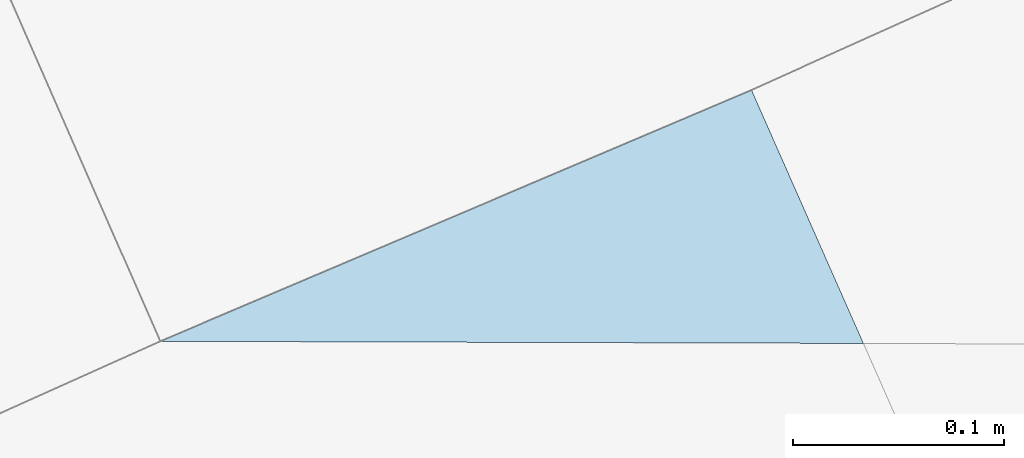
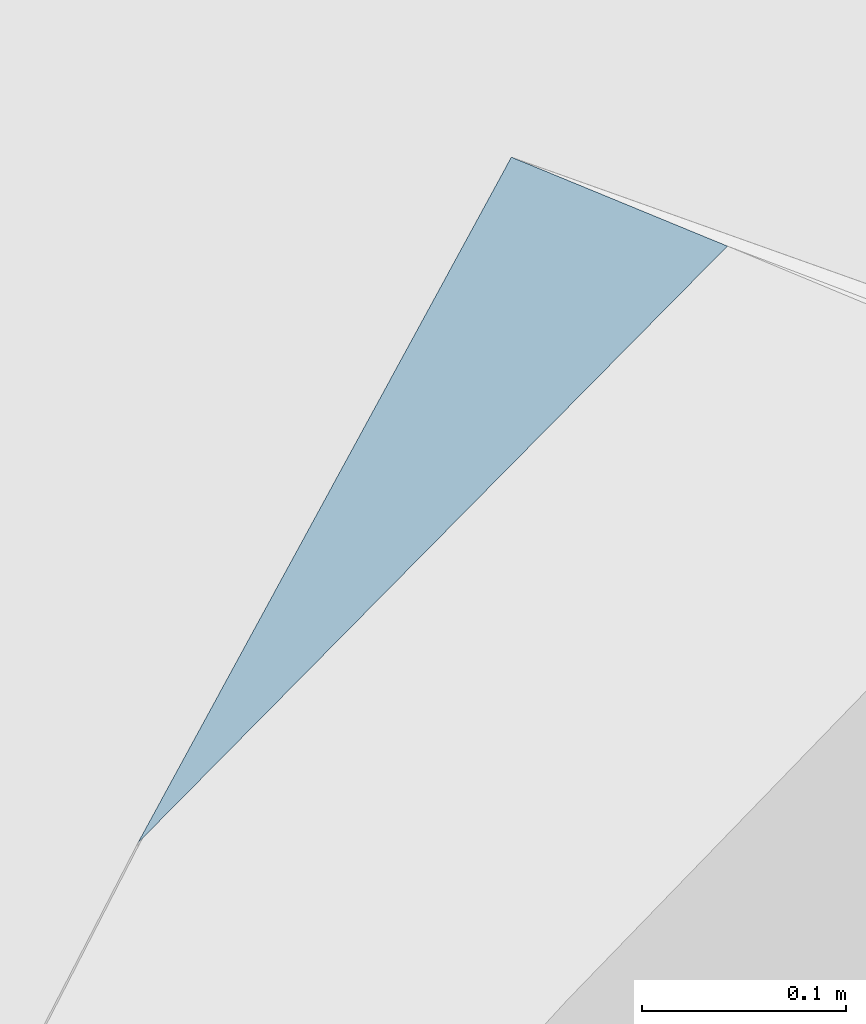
# Not in any storey, part 59 of 59: 2 roofs.
"""IFC4 building model written with IfcOpenShell, lengths in metres."""

import ifcopenshell
import ifcopenshell.guid

model = None  # the IFC model being written
_history = None  # IfcOwnerHistory: only IFC2X3 demands one
_inside = {}  # id of a spatial element -> (the spatial element, [elements in it])
_under = {}  # id of a project, library or spatial element -> (it, [spatial elements below it])
_declared = {}  # id of a project -> (the project, [libraries it declares])
_typed = {}  # id of a type object -> (the type object, [elements of that type])
_made_of = {}  # id of a material, layer set ... -> (it, [elements and type objects made of it])


def new_model(schema):
    """Start an empty IFC model of exactly this schema.

    Asked for "IFC4X3", IfcOpenShell would pick the latest addendum, in which some entities
    have other attributes; the version numbers below select the first issue.
    IFC2X3 requires an IfcOwnerHistory on every rooted entity: one is made here for all.
    """
    global model, _history
    if schema == "IFC4X3":
        model = ifcopenshell.file(schema_version=(4, 3, 0, 0))
    else:
        model = ifcopenshell.file(schema=schema)
    _inside.clear()
    _under.clear()
    _declared.clear()
    _typed.clear()
    _made_of.clear()
    _history = None
    if model.schema == "IFC2X3":
        org = make("IfcOrganization", Name="unknown")
        user = make(
            "IfcPersonAndOrganization",
            ThePerson=make("IfcPerson", FamilyName="unknown"),
            TheOrganization=org,
        )
        app = make(
            "IfcApplication",
            ApplicationDeveloper=org,
            Version="unknown",
            ApplicationFullName="unknown",
            ApplicationIdentifier="unknown",
        )
        _history = make(
            "IfcOwnerHistory",
            OwningUser=user,
            OwningApplication=app,
            ChangeAction="ADDED",
            CreationDate=0,
        )
    return model


def make(cls, **values):
    """One entity of the class cls with the attributes given. An attribute that is None is left unset."""
    return model.create_entity(
        cls, **{name: value for name, value in values.items() if value is not None}
    )


def entity(cls, *values):
    """Any entity or typed value of the class cls, its attributes in the order of the schema. None: left unset."""
    e = model.create_entity(cls)
    for i, value in enumerate(values):
        if value is not None:
            e[i] = value
    return e


def rooted(cls, **values):
    """An entity with a GlobalId (a new one), such as an element, a storey or a relation."""
    return make(cls, GlobalId=ifcopenshell.guid.new(), OwnerHistory=_history, **values)


def si_unit(unit_type, name, prefix=None):
    """IfcSIUnit, for example si_unit("LENGTHUNIT", "METRE", prefix="MILLI")."""
    return make("IfcSIUnit", UnitType=unit_type, Prefix=prefix, Name=name)


def converted_unit(unit_type, name, factor, base, dimensions=None, offset=None):
    """IfcConversionBasedUnit, such as the inch: factor (a typed value) times the base unit."""
    return make(
        "IfcConversionBasedUnit"
        if offset is None
        else "IfcConversionBasedUnitWithOffset",
        ConversionOffset=offset,
        Dimensions=None
        if dimensions is None
        else entity("IfcDimensionalExponents", *dimensions),
        UnitType=unit_type,
        Name=name,
        ConversionFactor=make(
            "IfcMeasureWithUnit", ValueComponent=factor, UnitComponent=base
        ),
    )


def assignment(units):
    """IfcUnitAssignment: the units of a project."""
    return None if units is None else make("IfcUnitAssignment", Units=units)


def point(xyz):
    """IfcCartesianPoint."""
    return None if xyz is None else make("IfcCartesianPoint", Coordinates=xyz)


def direction(xyz):
    """IfcDirection."""
    return None if xyz is None else make("IfcDirection", DirectionRatios=xyz)


def frame(location, z_axis=None, x_axis=None):
    """IfcAxis2Placement3D, a coordinate frame: its origin and axes. An axis left out is left unset."""
    return make(
        "IfcAxis2Placement3D",
        Location=point(location),
        Axis=direction(z_axis),
        RefDirection=direction(x_axis),
    )


def origin():
    """The frame at (0, 0, 0) with its axes left unset."""
    return frame((0.0, 0.0, 0.0))


def place(relative_to, where):
    """IfcLocalPlacement: puts the frame where relative to a parent placement (None: the world)."""
    return make(
        "IfcLocalPlacement", PlacementRelTo=relative_to, RelativePlacement=where
    )


def context(
    kind, dimensions, precision=None, world=None, true_north=None, identifier=None
):
    """IfcGeometricRepresentationContext, for example the 3D "Model" context."""
    return make(
        "IfcGeometricRepresentationContext",
        ContextIdentifier=identifier,
        ContextType=kind,
        CoordinateSpaceDimension=dimensions,
        Precision=precision,
        WorldCoordinateSystem=world,
        TrueNorth=true_north,
    )


def subcontext(parent, identifier, kind, view, scale=None):
    """IfcGeometricRepresentationSubContext, for example "Body" below "Model"."""
    return make(
        "IfcGeometricRepresentationSubContext",
        ContextIdentifier=identifier,
        ContextType=kind,
        ParentContext=parent,
        TargetScale=scale,
        TargetView=view,
    )


def project(units=None, contexts=None):
    """IfcProject with its units and contexts."""
    return rooted(
        "IfcProject",
        Name="project",
        RepresentationContexts=contexts,
        UnitsInContext=assignment(units),
    )


def spatial(cls, under=None, at=None, **own):
    """A site, building, storey or space (cls), placed at a placement, below another one or the project."""
    s = rooted(cls, ObjectPlacement=at, **own)
    if under is not None:
        _under.setdefault(under.id(), (under, []))[1].append(s)
    return s


def faces_of(points, faces, orient=None, outer=None):
    """IfcFace entities. A face is a list of loops; a loop is a list of indices into points, from 0.

    orient and outer hold one flag for each loop. By default every Orientation is true, the
    first loop of a face is its IfcFaceOuterBound and the others are IfcFaceBound.
    """
    made = []
    for i, loops in enumerate(faces):
        bounds = []
        for j, loop in enumerate(loops):
            is_outer = j == 0 if outer is None else outer[i][j]
            bounds.append(
                make(
                    "IfcFaceOuterBound" if is_outer else "IfcFaceBound",
                    Bound=make("IfcPolyLoop", Polygon=[points[k] for k in loop]),
                    Orientation=True if orient is None else orient[i][j],
                )
            )
        made.append(make("IfcFace", Bounds=bounds))
    return made


def face_set(faces, orient=None, outer=None):
    """The faces of one IfcConnectedFaceSet. surface_model builds it on its shared points."""
    return ("IfcConnectedFaceSet", faces, orient, outer)


def surface_model(cls, points, shells):
    """IfcFaceBasedSurfaceModel or IfcShellBasedSurfaceModel (cls): surfaces that need not close."""
    shared = [point(p) for p in points]
    made = [make(c, CfsFaces=faces_of(shared, fs, o, b)) for c, fs, o, b in shells]
    if cls == "IfcFaceBasedSurfaceModel":
        return make(cls, FbsmFaces=made)
    return make(cls, SbsmBoundary=made)


def shape(context_of_items, identifier, shape_type, items):
    """IfcShapeRepresentation: the items that make up one representation, for example the "Body"."""
    return make(
        "IfcShapeRepresentation",
        ContextOfItems=context_of_items,
        RepresentationIdentifier=identifier,
        RepresentationType=shape_type,
        Items=items,
    )


def made_of(thing, what):
    """Note that an element or type object is made of a material, layer set ...; save() writes the relation."""
    if what is not None:
        _made_of.setdefault(what.id(), (what, []))[1].append(thing)
    return thing


def element(
    cls,
    number,
    at=None,
    inside=None,
    cuts=None,
    type_object=None,
    material=None,
    context=None,
    identifier="Body",
    shape_type=None,
    held_by="IfcProductDefinitionShape",
    body=None,
    shapes=None,
    **own,
):
    """One element of the class cls, such as IfcWall. Its Tag is "e" and its number.

    at: its placement. inside: the storey or other place that contains it. cuts: it is an
    opening in that element (IfcRelVoidsElement). A single representation is given by context,
    identifier, shape_type and body (its items); several are given by shapes. held_by: the class
    of the entity that holds the representations. save() writes the other relations.
    """
    e = rooted(cls, Tag="e%d" % number, ObjectPlacement=at, **own)
    if body is not None:
        shapes = [shape(context, identifier, shape_type, body)]
    if shapes is not None:
        e.Representation = make(held_by, Representations=shapes)
    if inside is not None:
        _inside.setdefault(inside.id(), (inside, []))[1].append(e)
    if cuts is not None:
        rooted(
            "IfcRelVoidsElement", RelatingBuildingElement=cuts, RelatedOpeningElement=e
        )
    if type_object is not None:
        _typed.setdefault(type_object.id(), (type_object, []))[1].append(e)
    return made_of(e, material)


def aggregate(whole, parts):
    """IfcRelAggregates: a whole, such as a stair, and the parts it consists of."""
    return rooted("IfcRelAggregates", RelatingObject=whole, RelatedObjects=parts)


def save(model, path):
    """Write the relations noted so far, then the file.

    IfcRelAggregates (storeys below a building ...), IfcRelContainedInSpatialStructure (elements
    in a storey), IfcRelDefinesByType, IfcRelAssociatesMaterial and IfcRelDeclares: one each for
    every whole, place, type object, material and project.
    """
    for whole, parts in _under.values():
        aggregate(whole, parts)
    for where, things in _inside.values():
        rooted(
            "IfcRelContainedInSpatialStructure",
            RelatedElements=things,
            RelatingStructure=where,
        )
    for kind, things in _typed.values():
        rooted("IfcRelDefinesByType", RelatedObjects=things, RelatingType=kind)
    for what, things in _made_of.values():
        rooted("IfcRelAssociatesMaterial", RelatedObjects=things, RelatingMaterial=what)
    for by, libraries in _declared.values():
        rooted("IfcRelDeclares", RelatingContext=by, RelatedDefinitions=libraries)
    model.write(path)


model = new_model("IFC4")

# Units and contexts
model_context = context("Model", 3, precision=1e-05, world=origin())
body_context = subcontext(model_context, "Body", "Model", "MODEL_VIEW")
ifc_project = project(units=[converted_unit("PLANEANGLEUNIT", "DEGREE", entity("IfcRatioMeasure", 0.0174532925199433), si_unit("PLANEANGLEUNIT", "RADIAN"), dimensions=[0, 0, 0, 0, 0, 0, 0]), si_unit("AREAUNIT", "SQUARE_METRE"), si_unit("LENGTHUNIT", "METRE")], contexts=[model_context])

# Site, building
site_placement = place(None, origin())
site = spatial("IfcSite", under=ifc_project, at=site_placement, Name="_site")
building_placement = place(site_placement, origin())
building = spatial("IfcBuilding", under=site, at=building_placement, Name="_building")

# Roofs
for number, where, name in (
    (1, (0.0, 0.0, 0.0), "Roof"),
    (2, (0.0, 0.0, 0.0), "Roof"),
):
    element("IfcRoof", number, at=place(building_placement, frame(where)), inside=building, Name=name, PredefinedType="NOTDEFINED", context=body_context, shape_type="SurfaceModel", body=[
        surface_model("IfcFaceBasedSurfaceModel", [(233.463, 231.999, 223.301), (233.13, 232.0, 223.06), (233.41, 232.119, 223.3)], [face_set([[[0, 1, 2]]])]),
    ])

save(model, "model.ifc")
